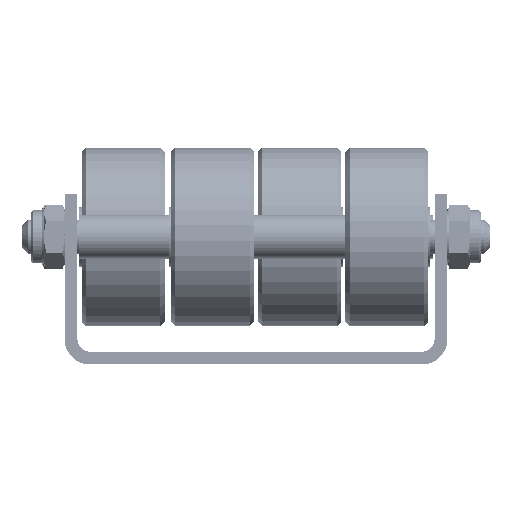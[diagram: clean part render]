
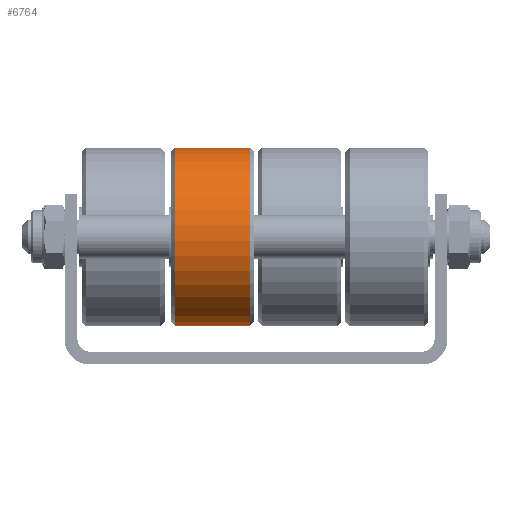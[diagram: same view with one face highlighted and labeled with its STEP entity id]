
A CAD part, front view. The second image highlights one B-rep face of the part: STEP entity #6764.
In plain terms, the highlighted cylindrical face has radius 21 mm (diameter 42 mm), a full revolution.
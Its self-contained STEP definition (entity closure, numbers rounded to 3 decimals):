
#2017=CYLINDRICAL_SURFACE('',#7503,21.);
#2412=CIRCLE('',#7504,21.);
#2413=CIRCLE('',#7505,21.);
#3391=ORIENTED_EDGE('',*,*,#4086,.T.);
#3392=ORIENTED_EDGE('',*,*,#4087,.T.);
#4086=EDGE_CURVE('',#4608,#4608,#2412,.F.);
#4087=EDGE_CURVE('',#4609,#4609,#2413,.T.);
#4608=VERTEX_POINT('',#11711);
#4609=VERTEX_POINT('',#11713);
#5609=EDGE_LOOP('',(#3391));
#5610=EDGE_LOOP('',(#3392));
#6391=FACE_BOUND('',#5609,.T.);
#6392=FACE_BOUND('',#5610,.T.);
#6764=ADVANCED_FACE('',(#6391,#6392),#2017,.T.);
#7503=AXIS2_PLACEMENT_3D('',#11709,#9340,#9341);
#7504=AXIS2_PLACEMENT_3D('',#11710,#9342,#9343);
#7505=AXIS2_PLACEMENT_3D('',#11712,#9344,#9345);
#9340=DIRECTION('',(0.,1.,0.));
#9341=DIRECTION('',(0.,0.,1.));
#9342=DIRECTION('',(0.,1.,0.));
#9343=DIRECTION('',(0.,0.,1.));
#9344=DIRECTION('',(0.,1.,0.));
#9345=DIRECTION('',(0.,0.,1.));
#11709=CARTESIAN_POINT('',(0.,-9.75,0.));
#11710=CARTESIAN_POINT('',(0.,8.75,0.));
#11711=CARTESIAN_POINT('',(0.,8.75,21.));
#11712=CARTESIAN_POINT('',(0.,-8.75,0.));
#11713=CARTESIAN_POINT('',(0.,-8.75,21.));
